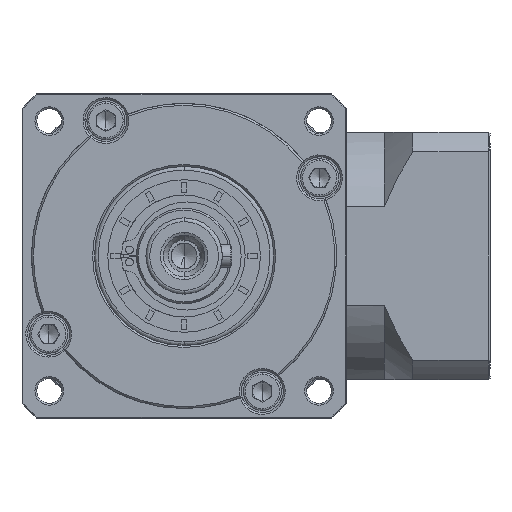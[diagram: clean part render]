
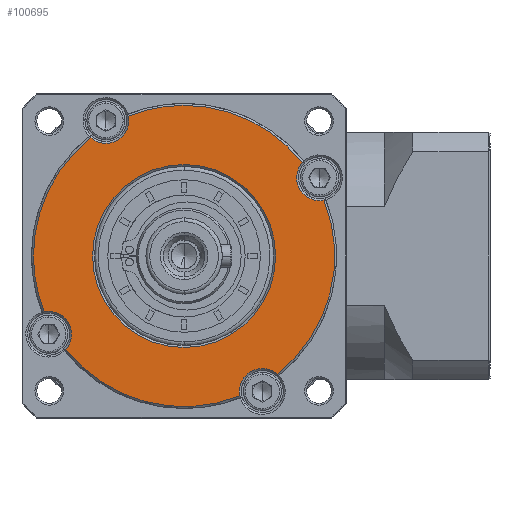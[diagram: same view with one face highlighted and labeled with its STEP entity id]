
A CAD part, left-side view. The second image highlights one B-rep face of the part: STEP entity #100695.
In plain terms, the highlighted planar face has unit normal (-1, 0, 0).
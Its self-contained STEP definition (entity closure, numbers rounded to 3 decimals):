
#471 = CARTESIAN_POINT ( 'NONE',  ( -78.111, 29.275, -154.769 ) ) ;
#7137 = CARTESIAN_POINT ( 'NONE',  ( -78.111, 33.774, -150.8 ) ) ;
#8507 = DIRECTION ( 'NONE',  ( 1., 0., 0. ) ) ;
#8989 = AXIS2_PLACEMENT_3D ( 'NONE', #16741, #111253, #30295 ) ;
#9612 = EDGE_LOOP ( 'NONE', ( #60139, #92455 ) ) ;
#11570 = AXIS2_PLACEMENT_3D ( 'NONE', #58021, #152631, #71554 ) ;
#12663 = CIRCLE ( 'NONE', #51227, 6. ) ;
#16741 = CARTESIAN_POINT ( 'NONE',  ( -78.111, -1.733, -130.3 ) ) ;
#18850 = DIRECTION ( 'NONE',  ( 1., 0., 0. ) ) ;
#18878 = CIRCLE ( 'NONE', #46891, 24. ) ;
#20542 = CARTESIAN_POINT ( 'NONE',  ( -78.111, 37.767, -130.3 ) ) ;
#20744 = DIRECTION ( 'NONE',  ( 0., 0., -1. ) ) ;
#20923 = EDGE_CURVE ( 'NONE', #81580, #139915, #12663, .T. ) ;
#21703 = CIRCLE ( 'NONE', #11570, 6. ) ;
#22981 = ORIENTED_EDGE ( 'NONE', *, *, #26287, .F. ) ;
#24814 = VERTEX_POINT ( 'NONE', #164600 ) ;
#26020 = CARTESIAN_POINT ( 'NONE',  ( -78.111, 22.737, -99.292 ) ) ;
#26287 = EDGE_CURVE ( 'NONE', #49055, #58662, #126679, .T. ) ;
#27855 = CARTESIAN_POINT ( 'NONE',  ( -78.111, 34.963, -144.918 ) ) ;
#29305 = CARTESIAN_POINT ( 'NONE',  ( -78.111, 18.767, -100.792 ) ) ;
#29647 = DIRECTION ( 'NONE',  ( 1., 0., 0. ) ) ;
#30295 = DIRECTION ( 'NONE',  ( 0., 0., 1. ) ) ;
#30434 = CARTESIAN_POINT ( 'NONE',  ( -78.111, -1.733, -130.3 ) ) ;
#31154 = DIRECTION ( 'NONE',  ( 1., 0., 0. ) ) ;
#31440 = ORIENTED_EDGE ( 'NONE', *, *, #40078, .T. ) ;
#32408 = CARTESIAN_POINT ( 'NONE',  ( -78.111, -32.741, -105.83 ) ) ;
#37108 = CARTESIAN_POINT ( 'NONE',  ( -78.111, 22.267, -130.3 ) ) ;
#37711 = EDGE_CURVE ( 'NONE', #135205, #125702, #125658, .T. ) ;
#38308 = EDGE_CURVE ( 'NONE', #135205, #76128, #21703, .T. ) ;
#39038 = AXIS2_PLACEMENT_3D ( 'NONE', #70238, #164854, #83863 ) ;
#39311 = FACE_BOUND ( 'NONE', #9612, .T. ) ;
#40078 = EDGE_CURVE ( 'NONE', #24814, #125702, #86303, .T. ) ;
#42192 = ORIENTED_EDGE ( 'NONE', *, *, #37711, .F. ) ;
#42544 = EDGE_CURVE ( 'NONE', #24814, #57709, #53040, .T. ) ;
#43545 = CARTESIAN_POINT ( 'NONE',  ( -78.111, -1.733, -90.8 ) ) ;
#43992 = DIRECTION ( 'NONE',  ( 0., 0., 1. ) ) ;
#45078 = CARTESIAN_POINT ( 'NONE',  ( -78.111, -22.233, -165.807 ) ) ;
#46891 = AXIS2_PLACEMENT_3D ( 'NONE', #53049, #147671, #66592 ) ;
#49055 = VERTEX_POINT ( 'NONE', #20542 ) ;
#50183 = CIRCLE ( 'NONE', #131499, 6. ) ;
#50592 = EDGE_CURVE ( 'NONE', #95763, #49055, #111388, .T. ) ;
#51227 = AXIS2_PLACEMENT_3D ( 'NONE', #67356, #161992, #80936 ) ;
#53040 = CIRCLE ( 'NONE', #8989, 39.5 ) ;
#53049 = CARTESIAN_POINT ( 'NONE',  ( -78.111, -1.733, -130.3 ) ) ;
#53698 = ORIENTED_EDGE ( 'NONE', *, *, #59897, .T. ) ;
#54175 = AXIS2_PLACEMENT_3D ( 'NONE', #76069, #170713, #89759 ) ;
#57709 = VERTEX_POINT ( 'NONE', #471 ) ;
#58021 = CARTESIAN_POINT ( 'NONE',  ( -78.111, -37.24, -109.8 ) ) ;
#58662 = VERTEX_POINT ( 'NONE', #26020 ) ;
#58757 = DIRECTION ( 'NONE',  ( 0., 0., -1. ) ) ;
#58873 = ORIENTED_EDGE ( 'NONE', *, *, #128777, .F. ) ;
#59897 = EDGE_CURVE ( 'NONE', #76128, #142941, #121651, .T. ) ;
#60139 = ORIENTED_EDGE ( 'NONE', *, *, #77450, .T. ) ;
#63897 = CARTESIAN_POINT ( 'NONE',  ( -78.111, -26.202, -161.307 ) ) ;
#64376 = CARTESIAN_POINT ( 'NONE',  ( -78.111, -1.733, -130.3 ) ) ;
#64796 = ORIENTED_EDGE ( 'NONE', *, *, #105340, .T. ) ;
#64835 = EDGE_CURVE ( 'NONE', #167647, #142941, #141789, .T. ) ;
#66592 = DIRECTION ( 'NONE',  ( 0., -1., 0. ) ) ;
#66766 = ORIENTED_EDGE ( 'NONE', *, *, #50592, .F. ) ;
#67356 = CARTESIAN_POINT ( 'NONE',  ( -78.111, 18.767, -94.792 ) ) ;
#68542 = ORIENTED_EDGE ( 'NONE', *, *, #20923, .T. ) ;
#69580 = CARTESIAN_POINT ( 'NONE',  ( -78.111, -1.733, -130.3 ) ) ;
#70238 = CARTESIAN_POINT ( 'NONE',  ( -78.111, 18.767, -94.792 ) ) ;
#71554 = DIRECTION ( 'NONE',  ( 0., 0., -1. ) ) ;
#76069 = CARTESIAN_POINT ( 'NONE',  ( -78.111, -1.733, -130.3 ) ) ;
#76128 = VERTEX_POINT ( 'NONE', #82511 ) ;
#77450 = EDGE_CURVE ( 'NONE', #128286, #126297, #135702, .T. ) ;
#77913 = DIRECTION ( 'NONE',  ( 0., 0., 1. ) ) ;
#80936 = DIRECTION ( 'NONE',  ( 0., 0., -1. ) ) ;
#81580 = VERTEX_POINT ( 'NONE', #97330 ) ;
#82511 = CARTESIAN_POINT ( 'NONE',  ( -78.111, -37.24, -115.8 ) ) ;
#83159 = DIRECTION ( 'NONE',  ( 0., -1., 0. ) ) ;
#83863 = DIRECTION ( 'NONE',  ( 0., 0., -1. ) ) ;
#86303 = CIRCLE ( 'NONE', #122906, 6. ) ;
#88265 = AXIS2_PLACEMENT_3D ( 'NONE', #112099, #31154, #125699 ) ;
#89492 = CARTESIAN_POINT ( 'NONE',  ( -78.111, -1.733, -130.3 ) ) ;
#89759 = DIRECTION ( 'NONE',  ( 0., 0., -1. ) ) ;
#92455 = ORIENTED_EDGE ( 'NONE', *, *, #110371, .T. ) ;
#95763 = VERTEX_POINT ( 'NONE', #27855 ) ;
#97330 = CARTESIAN_POINT ( 'NONE',  ( -78.111, 12.886, -93.604 ) ) ;
#97899 = ORIENTED_EDGE ( 'NONE', *, *, #102933, .T. ) ;
#99580 = CIRCLE ( 'NONE', #39038, 6. ) ;
#99733 = CARTESIAN_POINT ( 'NONE',  ( -78.111, -37.24, -109.8 ) ) ;
#100695 = ADVANCED_FACE ( 'NONE', ( #106998, #39311 ), #102729, .T. ) ;
#101633 = DIRECTION ( 'NONE',  ( 1., 0., 0. ) ) ;
#102729 = PLANE ( 'NONE',  #54175 ) ;
#102933 = EDGE_CURVE ( 'NONE', #95763, #57709, #50183, .T. ) ;
#103032 = DIRECTION ( 'NONE',  ( 0., 1., 0. ) ) ;
#105340 = EDGE_CURVE ( 'NONE', #139915, #58662, #99580, .T. ) ;
#105567 = ORIENTED_EDGE ( 'NONE', *, *, #64835, .F. ) ;
#105917 = CARTESIAN_POINT ( 'NONE',  ( -78.111, -25.733, -130.3 ) ) ;
#106998 = FACE_OUTER_BOUND ( 'NONE', #125015, .T. ) ;
#110371 = EDGE_CURVE ( 'NONE', #126297, #128286, #18878, .T. ) ;
#110586 = CARTESIAN_POINT ( 'NONE',  ( -78.111, -1.733, -130.3 ) ) ;
#111253 = DIRECTION ( 'NONE',  ( 1., 0., 0. ) ) ;
#111388 = CIRCLE ( 'NONE', #159978, 39.5 ) ;
#112099 = CARTESIAN_POINT ( 'NONE',  ( -78.111, -1.733, -130.3 ) ) ;
#112322 = AXIS2_PLACEMENT_3D ( 'NONE', #30434, #124991, #43992 ) ;
#113352 = DIRECTION ( 'NONE',  ( 0., 0., -1. ) ) ;
#117378 = ORIENTED_EDGE ( 'NONE', *, *, #38308, .T. ) ;
#117880 = AXIS2_PLACEMENT_3D ( 'NONE', #64376, #159027, #77913 ) ;
#121651 = CIRCLE ( 'NONE', #151983, 6. ) ;
#122906 = AXIS2_PLACEMENT_3D ( 'NONE', #45078, #139703, #58757 ) ;
#124217 = DIRECTION ( 'NONE',  ( 0., 1., 0. ) ) ;
#124991 = DIRECTION ( 'NONE',  ( 1., 0., 0. ) ) ;
#125015 = EDGE_LOOP ( 'NONE', ( #58873, #68542, #64796, #22981, #66766, #97899, #126300, #31440, #42192, #117378, #53698, #105567 ) ) ;
#125658 = CIRCLE ( 'NONE', #112322, 39.5 ) ;
#125699 = DIRECTION ( 'NONE',  ( 0., 0., 1. ) ) ;
#125702 = VERTEX_POINT ( 'NONE', #63897 ) ;
#126297 = VERTEX_POINT ( 'NONE', #37108 ) ;
#126300 = ORIENTED_EDGE ( 'NONE', *, *, #42544, .F. ) ;
#126679 = CIRCLE ( 'NONE', #165394, 39.5 ) ;
#128286 = VERTEX_POINT ( 'NONE', #105917 ) ;
#128777 = EDGE_CURVE ( 'NONE', #81580, #167647, #173270, .T. ) ;
#131499 = AXIS2_PLACEMENT_3D ( 'NONE', #7137, #101633, #20744 ) ;
#135205 = VERTEX_POINT ( 'NONE', #155491 ) ;
#135702 = CIRCLE ( 'NONE', #158474, 24. ) ;
#139703 = DIRECTION ( 'NONE',  ( 1., 0., 0. ) ) ;
#139915 = VERTEX_POINT ( 'NONE', #29305 ) ;
#141789 = CIRCLE ( 'NONE', #88265, 39.5 ) ;
#142941 = VERTEX_POINT ( 'NONE', #32408 ) ;
#147671 = DIRECTION ( 'NONE',  ( 1., 0., 0. ) ) ;
#151983 = AXIS2_PLACEMENT_3D ( 'NONE', #99733, #18850, #113352 ) ;
#152631 = DIRECTION ( 'NONE',  ( 1., 0., 0. ) ) ;
#155491 = CARTESIAN_POINT ( 'NONE',  ( -78.111, -38.428, -115.681 ) ) ;
#158474 = AXIS2_PLACEMENT_3D ( 'NONE', #69580, #164203, #83159 ) ;
#159027 = DIRECTION ( 'NONE',  ( 1., 0., 0. ) ) ;
#159978 = AXIS2_PLACEMENT_3D ( 'NONE', #89492, #8507, #103032 ) ;
#161992 = DIRECTION ( 'NONE',  ( 1., 0., 0. ) ) ;
#164203 = DIRECTION ( 'NONE',  ( 1., 0., 0. ) ) ;
#164600 = CARTESIAN_POINT ( 'NONE',  ( -78.111, -16.351, -166.995 ) ) ;
#164854 = DIRECTION ( 'NONE',  ( 1., 0., 0. ) ) ;
#165394 = AXIS2_PLACEMENT_3D ( 'NONE', #110586, #29647, #124217 ) ;
#167647 = VERTEX_POINT ( 'NONE', #43545 ) ;
#170713 = DIRECTION ( 'NONE',  ( -1., 0., 0. ) ) ;
#173270 = CIRCLE ( 'NONE', #117880, 39.5 ) ;
